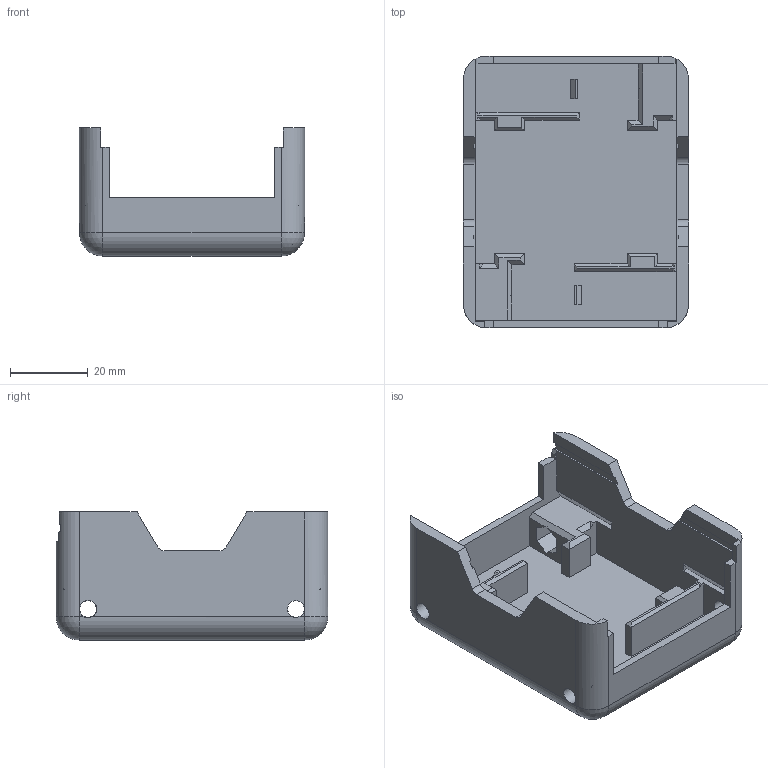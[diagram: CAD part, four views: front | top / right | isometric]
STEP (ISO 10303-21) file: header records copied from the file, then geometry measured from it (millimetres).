
FILE_DESCRIPTION(/* description */ ('Alibre Inc.'),/* implementation_level */ '2;1');
FILE_NAME(/* name */ 'export0',/* time_stamp */ '2018-08-03T14:11:45-04:00',/* author */ (''),/* organization */ (''),/* preprocessor_version */ 'ST-DEVELOPER v17',/* originating_system */ 'Alibre',/* authorisation */ '');
FILE_SCHEMA (('AUTOMOTIVE_DESIGN'));
Length unit declared in the file: millimetre
Bounding box: 58 x 70 x 33 mm (x, y, z)
Volume: 27242.1 mm3; surface area: 20674.1 mm2
Topology: 1 solids, 1 shells, 174 faces, 492 edges, 314 vertices
Faces by surface type: plane 152, cylinder 16, sphere 4, bspline 2
Full cylindrical faces by diameter (mm): 4.3 x2, 4.5 x2
Entity records: 5227 total; most frequent: CARTESIAN_POINT 1108, ORIENTED_EDGE 960, DIRECTION 636, EDGE_CURVE 480, VECTOR 395, LINE 395, VERTEX_POINT 310, EDGE_LOOP 184
